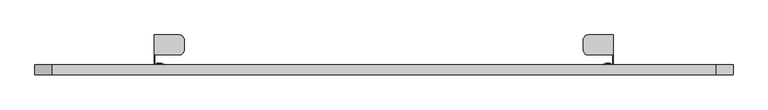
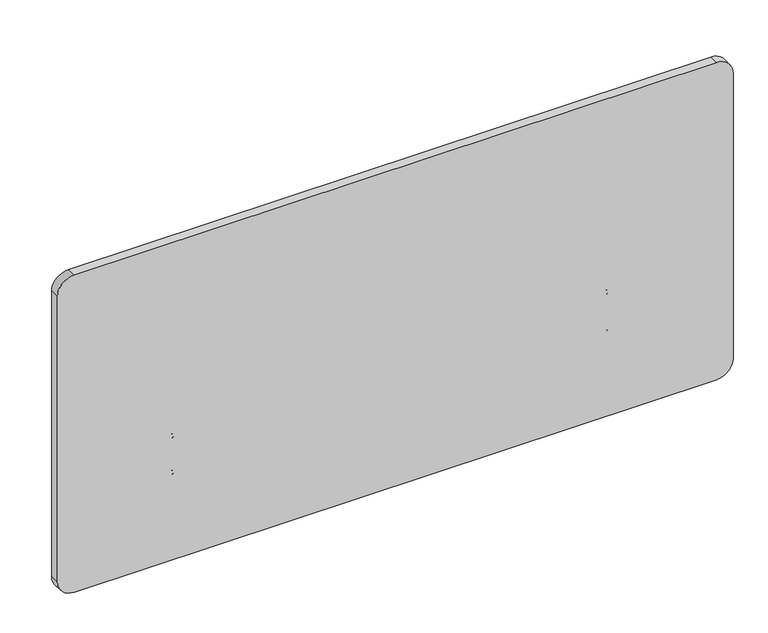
"""IFC4 building model written with IfcOpenShell, lengths in millimetres: furniture geometry."""

from ifc_helpers import new_model, si_unit, point, frame, frame_2d, origin, place, context, project, spatial, polyline, circle_curve, ellipse_curve, trimmed, segment, composite_curve, outline, extrude, source, transform, mapped, element, save
from ifc_brep_helpers import plane_surface, cylinder_surface, revolved_surface, advanced_brep


def furniture_b311e014(model_context):
    return source(origin(), model_context, "Body", "SolidModel", [
        advanced_brep(
        [(1460.5, -21.8059009, 589.8587612), (1460.5, -21.8059009, 600.2330349), (1460.5, -21.8059009, 595.0458981), (1460.5, -20.9972467, 589.0501071), (1460.5, -20.9972467, 601.041689), (1460.5, -19.6576489, 589.3571695), (1460.5, -19.6576489, 600.7346266), (1460.5, -18.6965248, 595.0458981)],
        [
            (0, 1, circle_curve(frame((1460.5, -21.8059009, 595.0458981), z_axis=(0.0, -1.0, 0.0), x_axis=(0.0, 0.0, 1.0)), 5.1871369)),
            (1, 2),
            (2, 0),
            (1, 0, circle_curve(frame((1460.5, -21.8059009, 595.0458981), z_axis=(0.0, -1.0, 0.0), x_axis=(0.0, 0.0, 1.0)), 5.1871369)),
            (3, 4, circle_curve(frame((1460.5, -20.9972467, 595.0458981), z_axis=(0.0, -1.0, 0.0), x_axis=(0.0, 0.0, 1.0)), 5.995791)),
            (4, 1),
            (0, 3),
            (4, 3, circle_curve(frame((1460.5, -20.9972467, 595.0458981), z_axis=(0.0, -1.0, 0.0), x_axis=(0.0, 0.0, 1.0)), 5.995791)),
            (5, 6, circle_curve(frame((1460.5, -19.6576489, 595.0458981), z_axis=(0.0, -1.0, 0.0), x_axis=(0.0, 0.0, 1.0)), 5.6887286)),
            (6, 4, circle_curve(frame((1460.5, -20.4237193, 600.4681616), z_axis=(1.0, 0.0, 0.0), x_axis=(0.0, -1.0, 0.0)), 0.8110903)),
            (3, 5, circle_curve(frame((1460.5, -20.4237193, 589.6236345), z_axis=(1.0, 0.0, 0.0), x_axis=(0.0, -1.0, 0.0)), 0.8110903)),
            (6, 5, circle_curve(frame((1460.5, -19.6576489, 595.0458981), z_axis=(0.0, -1.0, 0.0), x_axis=(0.0, 0.0, 1.0)), 5.6887286)),
            (7, 6, circle_curve(frame((1460.5, -36.0123901, 595.0458981), z_axis=(1.0, 0.0, 0.0), x_axis=(0.0, -1.0, 0.0)), 17.3158653)),
            (5, 7, circle_curve(frame((1460.5, -36.0123901, 595.0458981), z_axis=(1.0, 0.0, 0.0), x_axis=(0.0, -1.0, 0.0)), 17.3158653)),
        ],
        [
            plane_surface(frame((1460.5, -21.8059009, 595.0458981), z_axis=(0.0, -1.0, 0.0), x_axis=(0.0, 0.0, 1.0))),
            revolved_surface(polyline([(1460.5, -21.8059009, 600.2330349), (1460.5, -20.9972467, 601.041689)]), (1460.5, -24.1274926, 595.0458981), (0.0, 1.0, 0.0)),
            revolved_surface(trimmed(ellipse_curve(frame((1460.5, -20.4237193, 600.4681616), z_axis=(-1.0, 0.0, 0.0), x_axis=(0.0, -1.0, 0.0)), 0.8110903, 0.8110903), [point((1460.5, -20.9972467, 601.041689))], [point((1460.5, -19.6576489, 600.7346266))], True, "CARTESIAN"), (1460.5, -24.1274926, 595.0458981), (0.0, 1.0, 0.0)),
            revolved_surface(trimmed(ellipse_curve(frame((1460.5, -36.0123901, 595.0458981), z_axis=(-1.0, 0.0, 0.0), x_axis=(0.0, -1.0, 0.0)), 17.3158653, 17.3158653), [point((1460.5, -19.6576489, 600.7346266))], [point((1460.5, -18.6965248, 595.0458981))], True, "CARTESIAN"), (1460.5, -24.1274926, 595.0458981), (0.0, 1.0, 0.0)),
        ],
        [
            (0, [[1, 2, 3]]),
            (0, [[4, -3, -2]]),
            (1, [[5, 6, -1, 7]]),
            (1, [[8, -7, -4, -6]]),
            (2, [[9, 10, -5, 11]]),
            (2, [[12, -11, -8, -10]]),
            (3, [[13, -9, 14]]),
            (3, [[-14, -12, -13]]),
        ],
    ),
        advanced_brep(
        [(1460.5, -21.8059009, 691.4587612), (1460.5, -21.8059009, 701.8330349), (1460.5, -21.8059009, 696.6458981), (1460.5, -20.9972467, 690.6501071), (1460.5, -20.9972467, 702.641689), (1460.5, -19.6576489, 690.9571695), (1460.5, -19.6576489, 702.3346266), (1460.5, -18.6965248, 696.6458981)],
        [
            (0, 1, circle_curve(frame((1460.5, -21.8059009, 696.6458981), z_axis=(0.0, -1.0, 0.0), x_axis=(0.0, 0.0, 1.0)), 5.1871369)),
            (1, 2),
            (2, 0),
            (1, 0, circle_curve(frame((1460.5, -21.8059009, 696.6458981), z_axis=(0.0, -1.0, 0.0), x_axis=(0.0, 0.0, 1.0)), 5.1871369)),
            (3, 4, circle_curve(frame((1460.5, -20.9972467, 696.6458981), z_axis=(0.0, -1.0, 0.0), x_axis=(0.0, 0.0, 1.0)), 5.995791)),
            (4, 1),
            (0, 3),
            (4, 3, circle_curve(frame((1460.5, -20.9972467, 696.6458981), z_axis=(0.0, -1.0, 0.0), x_axis=(0.0, 0.0, 1.0)), 5.995791)),
            (5, 6, circle_curve(frame((1460.5, -19.6576489, 696.6458981), z_axis=(0.0, -1.0, 0.0), x_axis=(0.0, 0.0, 1.0)), 5.6887286)),
            (6, 4, circle_curve(frame((1460.5, -20.4237193, 702.0681616), z_axis=(1.0, 0.0, 0.0), x_axis=(0.0, -1.0, 0.0)), 0.8110903)),
            (3, 5, circle_curve(frame((1460.5, -20.4237193, 691.2236345), z_axis=(1.0, 0.0, 0.0), x_axis=(0.0, -1.0, 0.0)), 0.8110903)),
            (6, 5, circle_curve(frame((1460.5, -19.6576489, 696.6458981), z_axis=(0.0, -1.0, 0.0), x_axis=(0.0, 0.0, 1.0)), 5.6887286)),
            (7, 6, circle_curve(frame((1460.5, -36.0123901, 696.6458981), z_axis=(1.0, 0.0, 0.0), x_axis=(0.0, -1.0, 0.0)), 17.3158653)),
            (5, 7, circle_curve(frame((1460.5, -36.0123901, 696.6458981), z_axis=(1.0, 0.0, 0.0), x_axis=(0.0, -1.0, 0.0)), 17.3158653)),
        ],
        [
            plane_surface(frame((1460.5, -21.8059009, 696.6458981), z_axis=(0.0, -1.0, 0.0), x_axis=(0.0, 0.0, 1.0))),
            revolved_surface(polyline([(1460.5, -21.8059009, 701.8330349), (1460.5, -20.9972467, 702.641689)]), (1460.5, -24.1274926, 696.6458981), (0.0, 1.0, 0.0)),
            revolved_surface(trimmed(ellipse_curve(frame((1460.5, -20.4237193, 702.0681616), z_axis=(-1.0, 0.0, 0.0), x_axis=(0.0, -1.0, 0.0)), 0.8110903, 0.8110903), [point((1460.5, -20.9972467, 702.641689))], [point((1460.5, -19.6576489, 702.3346266))], True, "CARTESIAN"), (1460.5, -24.1274926, 696.6458981), (0.0, 1.0, 0.0)),
            revolved_surface(trimmed(ellipse_curve(frame((1460.5, -36.0123901, 696.6458981), z_axis=(-1.0, 0.0, 0.0), x_axis=(0.0, -1.0, 0.0)), 17.3158653, 17.3158653), [point((1460.5, -19.6576489, 702.3346266))], [point((1460.5, -18.6965248, 696.6458981))], True, "CARTESIAN"), (1460.5, -24.1274926, 696.6458981), (0.0, 1.0, 0.0)),
        ],
        [
            (0, [[1, 2, 3]]),
            (0, [[4, -3, -2]]),
            (1, [[5, 6, -1, 7]]),
            (1, [[8, -7, -4, -6]]),
            (2, [[9, 10, -5, 11]]),
            (2, [[12, -11, -8, -10]]),
            (3, [[13, -9, 14]]),
            (3, [[-14, -12, -13]]),
        ],
    ),
        advanced_brep(
        [(1409.7510279, 52.8066014, 717.55), (1473.2510461, 52.8066014, 717.55), (1473.2510461, 52.8066014, 679.4500392), (1471.6635461, 52.8066014, 679.4500392), (1471.6635461, 52.8066014, 715.9625), (1409.7510279, 52.8066014, 715.9625), (1409.7510279, 2.0065999, 715.9625), (1471.6635461, 2.0065999, 715.9625), (1471.6635461, 2.0065999, 710.2872593), (1473.2510461, 2.0065999, 710.2872593), (1473.2510461, 2.0065999, 717.55), (1409.7510279, 2.0065999, 717.55), (1397.0510279, 40.1066014, 717.55), (1397.0510279, 14.7065999, 717.55), (1473.2510461, -21.8059009, 710.2872593), (1473.2510461, -21.8059009, 568.7822274), (1473.2510461, 3.2766045, 568.7822274), (1471.6635461, -23.3934009, 568.7822274), (1450.232284, -23.3934009, 568.7822274), (1450.232284, -21.8059009, 568.7822274), (1471.6635461, -21.8059009, 568.7822274), (1471.6635461, 3.2766045, 568.7822274), (1471.6635461, -21.8059009, 710.2872593), (1397.0510279, 14.7065999, 715.9625), (1397.0510279, 40.1066014, 715.9625), (1454.5457771, -21.8059009, 710.2872593), (1450.232284, -21.8059009, 710.2872593), (1450.232284, -23.3934009, 710.2872593), (1454.5457771, -23.3934009, 710.2872593), (1471.6635461, -23.3934009, 710.2872593), (1447.851034, -21.8059009, 571.1634774), (1447.851034, -21.8059009, 707.9060093), (1447.851034, -23.3934009, 707.9060093), (1447.851034, -23.3934009, 571.1634774)],
        [
            (0, 1),
            (1, 2),
            (2, 3),
            (3, 4),
            (4, 5),
            (5, 0),
            (6, 7),
            (7, 8),
            (8, 9),
            (9, 10),
            (10, 11),
            (11, 6),
            (10, 1),
            (0, 12, circle_curve(frame((1409.7510279, 40.1066014, 717.55), z_axis=(0.0, 0.0, 1.0), x_axis=(-1.0, 0.0, 0.0)), 12.7)),
            (12, 13),
            (13, 11, circle_curve(frame((1409.7510279, 14.7065999, 717.55), z_axis=(0.0, 0.0, 1.0), x_axis=(-1.0, 0.0, 0.0)), 12.7)),
            (9, 14),
            (14, 15),
            (15, 16),
            (16, 2),
            (15, 17, circle_curve(frame((1471.6635461, -21.8059009, 568.7822274), z_axis=(0.0, 0.0, -1.0), x_axis=(-1.0, 0.0, 0.0)), 1.5875)),
            (17, 18),
            (18, 19),
            (19, 20),
            (20, 21),
            (21, 16),
            (7, 4),
            (3, 21),
            (20, 22),
            (22, 8),
            (6, 23, circle_curve(frame((1409.7510279, 14.7065999, 715.9625), z_axis=(0.0, 0.0, -1.0), x_axis=(-1.0, 0.0, 0.0)), 12.7)),
            (23, 24),
            (24, 5, circle_curve(frame((1409.7510279, 40.1066014, 715.9625), z_axis=(0.0, 0.0, -1.0), x_axis=(-1.0, 0.0, 0.0)), 12.7)),
            (12, 24),
            (23, 13),
            (22, 25),
            (25, 26),
            (26, 27),
            (27, 28),
            (28, 29),
            (29, 14, circle_curve(frame((1471.6635461, -21.8059009, 710.2872593), z_axis=(0.0, 0.0, 1.0), x_axis=(-1.0, 0.0, 0.0)), 1.5875)),
            (19, 30, circle_curve(frame((1450.232284, -21.8059009, 571.1634774), z_axis=(0.0, 1.0, 0.0), x_axis=(-1.0, 0.0, 0.0)), 2.38125)),
            (30, 31),
            (31, 26, circle_curve(frame((1450.232284, -21.8059009, 707.9060093), z_axis=(0.0, 1.0, 0.0), x_axis=(-1.0, 0.0, 0.0)), 2.38125)),
            (17, 29),
            (27, 32, circle_curve(frame((1450.232284, -23.3934009, 707.9060093), z_axis=(0.0, -1.0, 0.0), x_axis=(-1.0, 0.0, 0.0)), 2.38125)),
            (32, 33),
            (33, 18, circle_curve(frame((1450.232284, -23.3934009, 571.1634774), z_axis=(0.0, -1.0, 0.0), x_axis=(-1.0, 0.0, 0.0)), 2.38125)),
            (33, 30),
            (31, 32),
        ],
        [
            plane_surface(frame((1474.668122, 52.8066014, 717.55), z_axis=(0.0, 1.0, 0.0), x_axis=(1.0, 0.0, 0.0))),
            plane_surface(frame((1474.668122, 2.0065999, 717.55), z_axis=(0.0, -1.0, 0.0), x_axis=(-1.0, 0.0, 0.0))),
            plane_surface(frame((1397.0510279, 52.8066014, 717.55), z_axis=(0.0, 0.0, 1.0), x_axis=(0.0, -1.0, 0.0))),
            plane_surface(frame((1473.2510461, 52.8066014, 717.55), z_axis=(1.0, 0.0, 0.0), x_axis=(0.0, -1.0, 0.0))),
            plane_surface(frame((1473.2510461, 52.8066014, 568.7822274), z_axis=(0.0, 0.0, -1.0), x_axis=(0.0, -1.0, 0.0))),
            plane_surface(frame((1471.6635461, 52.8066014, 568.7822274), z_axis=(-1.0, 0.0, 0.0), x_axis=(0.0, -1.0, 0.0))),
            plane_surface(frame((1471.6635461, 52.8066014, 715.9625), z_axis=(0.0, 0.0, -1.0), x_axis=(0.0, -1.0, 0.0))),
            plane_surface(frame((1397.0510279, 52.8066014, 715.9625), z_axis=(-1.0, 0.0, 0.0), x_axis=(0.0, -1.0, 0.0))),
            cylinder_surface(frame((1409.7510279, 14.7065999, 715.9625), z_axis=(0.0, 0.0, -1.0), x_axis=(-1.0, 0.0, 0.0)), 12.7),
            cylinder_surface(frame((1409.7510279, 40.1066014, 717.55), z_axis=(0.0, 0.0, -1.0), x_axis=(-1.0, 0.0, 0.0)), 12.7),
            plane_surface(frame((1473.2510461, 52.8066014, 679.4500392), z_axis=(0.0, 0.9127545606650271, -0.4085083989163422), x_axis=(-1.0, 0.0, 0.0))),
            plane_surface(frame((1473.2510461, 0.0, 710.2872593), z_axis=(0.0, 0.0, 1.0), x_axis=(0.0, 1.0, 0.0))),
            plane_surface(frame((1471.6635461, -21.8059009, 710.2872593), z_axis=(0.0, 1.0, 0.0), x_axis=(0.0, 0.0, -1.0))),
            plane_surface(frame((1446.0201082, -23.3934009, 710.2872593), z_axis=(0.0, -1.0, 0.0), x_axis=(0.0, 0.0, -1.0))),
            cylinder_surface(frame((1450.232284, -23.3934009, 571.1634774), z_axis=(0.0, -1.0, 0.0), x_axis=(-1.0, 0.0, 0.0)), 2.38125),
            cylinder_surface(frame((1450.232284, -23.3934009, 707.9060093), z_axis=(0.0, -1.0, 0.0), x_axis=(-1.0, 0.0, 0.0)), 2.38125),
            plane_surface(frame((1447.851034, -21.8059009, 707.9060093), z_axis=(-1.0, 0.0, 0.0), x_axis=(0.0, -1.0, 0.0))),
            cylinder_surface(frame((1471.6635461, -21.8059009, 568.7822274), z_axis=(0.0, 0.0, 1.0), x_axis=(-1.0, 0.0, 0.0)), 1.5875),
        ],
        [
            (0, [[1, 2, 3, 4, 5, 6]]),
            (1, [[7, 8, 9, 10, 11, 12]]),
            (2, [[13, -1, 14, 15, 16, -11]]),
            (3, [[-13, -10, 17, 18, 19, 20, -2]]),
            (4, [[-19, 21, 22, 23, 24, 25, 26]]),
            (5, [[27, -4, 28, -25, 29, 30, -8]]),
            (6, [[-27, -7, 31, 32, 33, -5]]),
            (7, [[-15, 34, -32, 35]]),
            (8, [[-12, -16, -35, -31]]),
            (9, [[-6, -33, -34, -14]]),
            (10, [[-3, -20, -26, -28]]),
            (11, [[-17, -9, -30, 36, 37, 38, 39, 40, 41]]),
            (12, [[-29, -24, 42, 43, 44, -37, -36]]),
            (13, [[-22, 45, -40, -39, 46, 47, 48]]),
            (14, [[49, -42, -23, -48]]),
            (15, [[50, -46, -38, -44]]),
            (16, [[-49, -47, -50, -43]]),
            (17, [[-41, -45, -21, -18]]),
        ],
    ),
        advanced_brep(
        [(317.5, -21.8059009, 589.8587612), (317.5, -21.8059009, 595.0458981), (317.5, -21.8059009, 600.2330349), (317.5, -20.9972467, 589.0501071), (317.5, -20.9972467, 601.041689), (317.5, -19.6576489, 589.3571695), (317.5, -19.6576489, 600.7346266), (317.5, -18.6965248, 595.0458981)],
        [
            (0, 1),
            (1, 2),
            (2, 0, circle_curve(frame((317.5, -21.8059009, 595.0458981), z_axis=(0.0, -1.0, 0.0), x_axis=(0.0, 0.0, 1.0)), 5.1871369)),
            (0, 2, circle_curve(frame((317.5, -21.8059009, 595.0458981), z_axis=(0.0, -1.0, 0.0), x_axis=(0.0, 0.0, 1.0)), 5.1871369)),
            (3, 0),
            (2, 4),
            (4, 3, circle_curve(frame((317.5, -20.9972467, 595.0458981), z_axis=(0.0, -1.0, 0.0), x_axis=(0.0, 0.0, 1.0)), 5.995791)),
            (3, 4, circle_curve(frame((317.5, -20.9972467, 595.0458981), z_axis=(0.0, -1.0, 0.0), x_axis=(0.0, 0.0, 1.0)), 5.995791)),
            (5, 3, circle_curve(frame((317.5, -20.4237193, 589.6236345), z_axis=(-1.0, 0.0, 0.0), x_axis=(0.0, -1.0, 0.0)), 0.8110903)),
            (4, 6, circle_curve(frame((317.5, -20.4237193, 600.4681616), z_axis=(-1.0, 0.0, 0.0), x_axis=(0.0, -1.0, 0.0)), 0.8110903)),
            (6, 5, circle_curve(frame((317.5, -19.6576489, 595.0458981), z_axis=(0.0, -1.0, 0.0), x_axis=(0.0, 0.0, 1.0)), 5.6887286)),
            (5, 6, circle_curve(frame((317.5, -19.6576489, 595.0458981), z_axis=(0.0, -1.0, 0.0), x_axis=(0.0, 0.0, 1.0)), 5.6887286)),
            (7, 5, circle_curve(frame((317.5, -36.0123901, 595.0458981), z_axis=(-1.0, 0.0, 0.0), x_axis=(0.0, -1.0, 0.0)), 17.3158653)),
            (6, 7, circle_curve(frame((317.5, -36.0123901, 595.0458981), z_axis=(-1.0, 0.0, 0.0), x_axis=(0.0, -1.0, 0.0)), 17.3158653)),
        ],
        [
            plane_surface(frame((317.5, -21.8059009, 595.0458981), z_axis=(0.0, -1.0, 0.0), x_axis=(0.0, 0.0, 1.0))),
            revolved_surface(polyline([(317.5, -21.8059009, 600.2330349), (317.5, -20.9972467, 601.041689)]), (317.5, -24.1274926, 595.0458981), (0.0, 1.0, 0.0)),
            revolved_surface(trimmed(ellipse_curve(frame((317.5, -20.4237193, 600.4681616), z_axis=(-1.0, 0.0, 0.0), x_axis=(0.0, -1.0, 0.0)), 0.8110903, 0.8110903), [point((317.5, -20.9972467, 601.041689))], [point((317.5, -19.6576489, 600.7346266))], True, "CARTESIAN"), (317.5, -24.1274926, 595.0458981), (0.0, 1.0, 0.0)),
            revolved_surface(trimmed(ellipse_curve(frame((317.5, -36.0123901, 595.0458981), z_axis=(-1.0, 0.0, 0.0), x_axis=(0.0, -1.0, 0.0)), 17.3158653, 17.3158653), [point((317.5, -19.6576489, 600.7346266))], [point((317.5, -18.6965248, 595.0458981))], True, "CARTESIAN"), (317.5, -24.1274926, 595.0458981), (0.0, 1.0, 0.0)),
        ],
        [
            (0, [[1, 2, 3]]),
            (0, [[-2, -1, 4]]),
            (1, [[5, -3, 6, 7]]),
            (1, [[-6, -4, -5, 8]]),
            (2, [[9, -7, 10, 11]]),
            (2, [[-10, -8, -9, 12]]),
            (3, [[13, -11, 14]]),
            (3, [[-14, -12, -13]]),
        ],
    ),
        advanced_brep(
        [(317.5, -21.8059009, 691.4587612), (317.5, -21.8059009, 696.6458981), (317.5, -21.8059009, 701.8330349), (317.5, -20.9972467, 690.6501071), (317.5, -20.9972467, 702.641689), (317.5, -19.6576489, 690.9571695), (317.5, -19.6576489, 702.3346266), (317.5, -18.6965248, 696.6458981)],
        [
            (0, 1),
            (1, 2),
            (2, 0, circle_curve(frame((317.5, -21.8059009, 696.6458981), z_axis=(0.0, -1.0, 0.0), x_axis=(0.0, 0.0, 1.0)), 5.1871369)),
            (0, 2, circle_curve(frame((317.5, -21.8059009, 696.6458981), z_axis=(0.0, -1.0, 0.0), x_axis=(0.0, 0.0, 1.0)), 5.1871369)),
            (3, 0),
            (2, 4),
            (4, 3, circle_curve(frame((317.5, -20.9972467, 696.6458981), z_axis=(0.0, -1.0, 0.0), x_axis=(0.0, 0.0, 1.0)), 5.995791)),
            (3, 4, circle_curve(frame((317.5, -20.9972467, 696.6458981), z_axis=(0.0, -1.0, 0.0), x_axis=(0.0, 0.0, 1.0)), 5.995791)),
            (5, 3, circle_curve(frame((317.5, -20.4237193, 691.2236345), z_axis=(-1.0, 0.0, 0.0), x_axis=(0.0, -1.0, 0.0)), 0.8110903)),
            (4, 6, circle_curve(frame((317.5, -20.4237193, 702.0681616), z_axis=(-1.0, 0.0, 0.0), x_axis=(0.0, -1.0, 0.0)), 0.8110903)),
            (6, 5, circle_curve(frame((317.5, -19.6576489, 696.6458981), z_axis=(0.0, -1.0, 0.0), x_axis=(0.0, 0.0, 1.0)), 5.6887286)),
            (5, 6, circle_curve(frame((317.5, -19.6576489, 696.6458981), z_axis=(0.0, -1.0, 0.0), x_axis=(0.0, 0.0, 1.0)), 5.6887286)),
            (7, 5, circle_curve(frame((317.5, -36.0123901, 696.6458981), z_axis=(-1.0, 0.0, 0.0), x_axis=(0.0, -1.0, 0.0)), 17.3158653)),
            (6, 7, circle_curve(frame((317.5, -36.0123901, 696.6458981), z_axis=(-1.0, 0.0, 0.0), x_axis=(0.0, -1.0, 0.0)), 17.3158653)),
        ],
        [
            plane_surface(frame((317.5, -21.8059009, 696.6458981), z_axis=(0.0, -1.0, 0.0), x_axis=(0.0, 0.0, 1.0))),
            revolved_surface(polyline([(317.5, -21.8059009, 701.8330349), (317.5, -20.9972467, 702.641689)]), (317.5, -24.1274926, 696.6458981), (0.0, 1.0, 0.0)),
            revolved_surface(trimmed(ellipse_curve(frame((317.5, -20.4237193, 702.0681616), z_axis=(-1.0, 0.0, 0.0), x_axis=(0.0, -1.0, 0.0)), 0.8110903, 0.8110903), [point((317.5, -20.9972467, 702.641689))], [point((317.5, -19.6576489, 702.3346266))], True, "CARTESIAN"), (317.5, -24.1274926, 696.6458981), (0.0, 1.0, 0.0)),
            revolved_surface(trimmed(ellipse_curve(frame((317.5, -36.0123901, 696.6458981), z_axis=(-1.0, 0.0, 0.0), x_axis=(0.0, -1.0, 0.0)), 17.3158653, 17.3158653), [point((317.5, -19.6576489, 702.3346266))], [point((317.5, -18.6965248, 696.6458981))], True, "CARTESIAN"), (317.5, -24.1274926, 696.6458981), (0.0, 1.0, 0.0)),
        ],
        [
            (0, [[1, 2, 3]]),
            (0, [[-2, -1, 4]]),
            (1, [[5, -3, 6, 7]]),
            (1, [[-6, -4, -5, 8]]),
            (2, [[9, -7, 10, 11]]),
            (2, [[-10, -8, -9, 12]]),
            (3, [[13, -11, 14]]),
            (3, [[-14, -12, -13]]),
        ],
    ),
        advanced_brep(
        [(368.2489721, 52.8066014, 717.55), (368.2489721, 52.8066014, 715.9625), (306.3364539, 52.8066014, 715.9625), (306.3364539, 52.8066014, 679.4500392), (304.7489539, 52.8066014, 679.4500392), (304.7489539, 52.8066014, 717.55), (368.2489721, 2.0065999, 715.9625), (368.2489721, 2.0065999, 717.55), (304.7489539, 2.0065999, 717.55), (304.7489539, 2.0065999, 710.2872593), (306.3364539, 2.0065999, 710.2872593), (306.3364539, 2.0065999, 715.9625), (380.9489721, 14.7065999, 717.55), (380.9489721, 40.1066014, 717.55), (304.7489539, 3.2766045, 568.7822274), (304.7489539, -21.8059009, 568.7822274), (304.7489539, -21.8059009, 710.2872593), (306.3364539, 3.2766045, 568.7822274), (306.3364539, -21.8059009, 568.7822274), (327.767716, -21.8059009, 568.7822274), (327.767716, -23.3934009, 568.7822274), (306.3364539, -23.3934009, 568.7822274), (306.3364539, -21.8059009, 710.2872593), (380.9489721, 40.1066014, 715.9625), (380.9489721, 14.7065999, 715.9625), (306.3364539, -23.3934009, 710.2872593), (323.4542229, -23.3934009, 710.2872593), (327.767716, -23.3934009, 710.2872593), (327.767716, -21.8059009, 710.2872593), (323.4542229, -21.8059009, 710.2872593), (330.148966, -21.8059009, 707.9060093), (330.148966, -21.8059009, 571.1634774), (330.148966, -23.3934009, 571.1634774), (330.148966, -23.3934009, 707.9060093)],
        [
            (0, 1),
            (1, 2),
            (2, 3),
            (3, 4),
            (4, 5),
            (5, 0),
            (6, 7),
            (7, 8),
            (8, 9),
            (9, 10),
            (10, 11),
            (11, 6),
            (7, 12, circle_curve(frame((368.2489721, 14.7065999, 717.55), z_axis=(0.0, 0.0, 1.0), x_axis=(1.0, 0.0, 0.0)), 12.7)),
            (12, 13),
            (13, 0, circle_curve(frame((368.2489721, 40.1066014, 717.55), z_axis=(0.0, 0.0, 1.0), x_axis=(1.0, 0.0, 0.0)), 12.7)),
            (5, 8),
            (4, 14),
            (14, 15),
            (15, 16),
            (16, 9),
            (14, 17),
            (17, 18),
            (18, 19),
            (19, 20),
            (20, 21),
            (21, 15, circle_curve(frame((306.3364539, -21.8059009, 568.7822274), z_axis=(0.0, 0.0, -1.0), x_axis=(1.0, 0.0, 0.0)), 1.5875)),
            (10, 22),
            (22, 18),
            (17, 3),
            (2, 11),
            (1, 23, circle_curve(frame((368.2489721, 40.1066014, 715.9625), z_axis=(0.0, 0.0, -1.0), x_axis=(1.0, 0.0, 0.0)), 12.7)),
            (23, 24),
            (24, 6, circle_curve(frame((368.2489721, 14.7065999, 715.9625), z_axis=(0.0, 0.0, -1.0), x_axis=(1.0, 0.0, 0.0)), 12.7)),
            (12, 24),
            (23, 13),
            (16, 25, circle_curve(frame((306.3364539, -21.8059009, 710.2872593), z_axis=(0.0, 0.0, 1.0), x_axis=(1.0, 0.0, 0.0)), 1.5875)),
            (25, 26),
            (26, 27),
            (27, 28),
            (28, 29),
            (29, 22),
            (28, 30, circle_curve(frame((327.767716, -21.8059009, 707.9060093), z_axis=(0.0, 1.0, 0.0), x_axis=(1.0, 0.0, 0.0)), 2.38125)),
            (30, 31),
            (31, 19, circle_curve(frame((327.767716, -21.8059009, 571.1634774), z_axis=(0.0, 1.0, 0.0), x_axis=(1.0, 0.0, 0.0)), 2.38125)),
            (20, 32, circle_curve(frame((327.767716, -23.3934009, 571.1634774), z_axis=(0.0, -1.0, 0.0), x_axis=(1.0, 0.0, 0.0)), 2.38125)),
            (32, 33),
            (33, 27, circle_curve(frame((327.767716, -23.3934009, 707.9060093), z_axis=(0.0, -1.0, 0.0), x_axis=(1.0, 0.0, 0.0)), 2.38125)),
            (25, 21),
            (31, 32),
            (33, 30),
        ],
        [
            plane_surface(frame((303.331878, 52.8066014, 717.55), z_axis=(0.0, 1.0, 0.0), x_axis=(-1.0, 0.0, 0.0))),
            plane_surface(frame((303.331878, 2.0065999, 717.55), z_axis=(0.0, -1.0, 0.0), x_axis=(1.0, 0.0, 0.0))),
            plane_surface(frame((380.9489721, 52.8066014, 717.55), z_axis=(0.0, 0.0, 1.0), x_axis=(0.0, -1.0, 0.0))),
            plane_surface(frame((304.7489539, 52.8066014, 717.55), z_axis=(-1.0, 0.0, 0.0), x_axis=(0.0, -1.0, 0.0))),
            plane_surface(frame((304.7489539, 52.8066014, 568.7822274), z_axis=(0.0, 0.0, -1.0), x_axis=(0.0, -1.0, 0.0))),
            plane_surface(frame((306.3364539, 52.8066014, 568.7822274), z_axis=(1.0, 0.0, 0.0), x_axis=(0.0, -1.0, 0.0))),
            plane_surface(frame((306.3364539, 52.8066014, 715.9625), z_axis=(0.0, 0.0, -1.0), x_axis=(0.0, -1.0, 0.0))),
            plane_surface(frame((380.9489721, 52.8066014, 715.9625), z_axis=(1.0, 0.0, 0.0), x_axis=(0.0, -1.0, 0.0))),
            cylinder_surface(frame((368.2489721, 14.7065999, 715.9625), z_axis=(0.0, 0.0, -1.0), x_axis=(1.0, 0.0, 0.0)), 12.7),
            cylinder_surface(frame((368.2489721, 40.1066014, 717.55), z_axis=(0.0, 0.0, -1.0), x_axis=(1.0, 0.0, 0.0)), 12.7),
            plane_surface(frame((304.7489539, 52.8066014, 679.4500392), z_axis=(0.0, 0.9127545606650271, -0.4085083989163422), x_axis=(1.0, 0.0, 0.0))),
            plane_surface(frame((304.7489539, 0.0, 710.2872593), z_axis=(0.0, 0.0, 1.0), x_axis=(0.0, 1.0, 0.0))),
            plane_surface(frame((306.3364539, -21.8059009, 710.2872593), z_axis=(0.0, 1.0, 0.0), x_axis=(0.0, 0.0, -1.0))),
            plane_surface(frame((331.9798918, -23.3934009, 710.2872593), z_axis=(0.0, -1.0, 0.0), x_axis=(0.0, 0.0, -1.0))),
            cylinder_surface(frame((327.767716, -23.3934009, 571.1634774), z_axis=(0.0, -1.0, 0.0), x_axis=(1.0, 0.0, 0.0)), 2.38125),
            cylinder_surface(frame((327.767716, -23.3934009, 707.9060093), z_axis=(0.0, -1.0, 0.0), x_axis=(1.0, 0.0, 0.0)), 2.38125),
            plane_surface(frame((330.148966, -21.8059009, 707.9060093), z_axis=(1.0, 0.0, 0.0), x_axis=(0.0, -1.0, 0.0))),
            cylinder_surface(frame((306.3364539, -21.8059009, 568.7822274), z_axis=(0.0, 0.0, 1.0), x_axis=(1.0, 0.0, 0.0)), 1.5875),
        ],
        [
            (0, [[1, 2, 3, 4, 5, 6]]),
            (1, [[7, 8, 9, 10, 11, 12]]),
            (2, [[-8, 13, 14, 15, -6, 16]]),
            (3, [[-5, 17, 18, 19, 20, -9, -16]]),
            (4, [[21, 22, 23, 24, 25, 26, -18]]),
            (5, [[-11, 27, 28, -22, 29, -3, 30]]),
            (6, [[-2, 31, 32, 33, -12, -30]]),
            (7, [[34, -32, 35, -14]]),
            (8, [[-33, -34, -13, -7]]),
            (9, [[-15, -35, -31, -1]]),
            (10, [[-29, -21, -17, -4]]),
            (11, [[36, 37, 38, 39, 40, 41, -27, -10, -20]]),
            (12, [[-41, -40, 42, 43, 44, -23, -28]]),
            (13, [[45, 46, 47, -38, -37, 48, -25]]),
            (14, [[-45, -24, -44, 49]]),
            (15, [[-42, -39, -47, 50]]),
            (16, [[-43, -50, -46, -49]]),
            (17, [[-19, -26, -48, -36]]),
        ],
    ),
        extrude(outline(composite_curve([segment(polyline([(1257.3, 1734.29271), (1257.3, 45.19271)]), True, "CONTINUOUS"), segment(trimmed(circle_curve(frame_2d((1212.85, 45.19271)), 44.45), [point((1257.3, 45.19271))], [point((1212.85, 0.74271))], False, "CARTESIAN"), True, "CONTINUOUS"), segment(polyline([(1212.85, 0.74271), (419.1, 0.74271)]), True, "CONTINUOUS"), segment(trimmed(circle_curve(frame_2d((419.1, 45.19271)), 44.45), [point((419.1, 0.74271))], [point((374.65, 45.19271))], False, "CARTESIAN"), True, "CONTINUOUS"), segment(polyline([(374.65, 45.19271), (374.65, 1734.29271)]), True, "CONTINUOUS"), segment(trimmed(circle_curve(frame_2d((419.1, 1734.29271)), 44.45), [point((374.65, 1734.29271))], [point((419.1, 1778.74271))], False, "CARTESIAN"), True, "CONTINUOUS"), segment(polyline([(419.1, 1778.74271), (1212.85, 1778.74271)]), True, "CONTINUOUS"), segment(trimmed(circle_curve(frame_2d((1212.85, 1734.29271)), 44.45), [point((1212.85, 1778.74271))], [point((1257.3, 1734.29271))], False, "CARTESIAN"), True, "CONTINUOUS")], self_intersect=False)), frame((0.0, -48.7934009, 0.0), z_axis=(0.0, 1.0, 0.0), x_axis=(0.0, 0.0, 1.0)), (0.0, 0.0, 1.0), 25.4),
    ])


if __name__ == "__main__":
    model = new_model("IFC4")
    model_context = context("Model", 3, world=origin())
    ifc_project = project(units=[si_unit("LENGTHUNIT", "METRE", prefix="MILLI")], contexts=[model_context])
    site = spatial("IfcSite", under=ifc_project)
    building = spatial("IfcBuilding", under=site)
    placement = place(None, origin())
    furniture_shape = furniture_b311e014(model_context)
    element("IfcFurniture", 1, ObjectType="HON - Universal Screens - A B - 34H - Fabric : 34\"H x 70\"W", at=placement, inside=building, context=model_context, shape_type="MappedRepresentation", body=[
        mapped(furniture_shape, transform((0.0, 0.0, 0.0), x_axis=(1.0, 0.0, 0.0), y_axis=(0.0, 1.0, 0.0), z_axis=(0.0, 0.0, 1.0))),
    ])
    save(model, "model.ifc")
